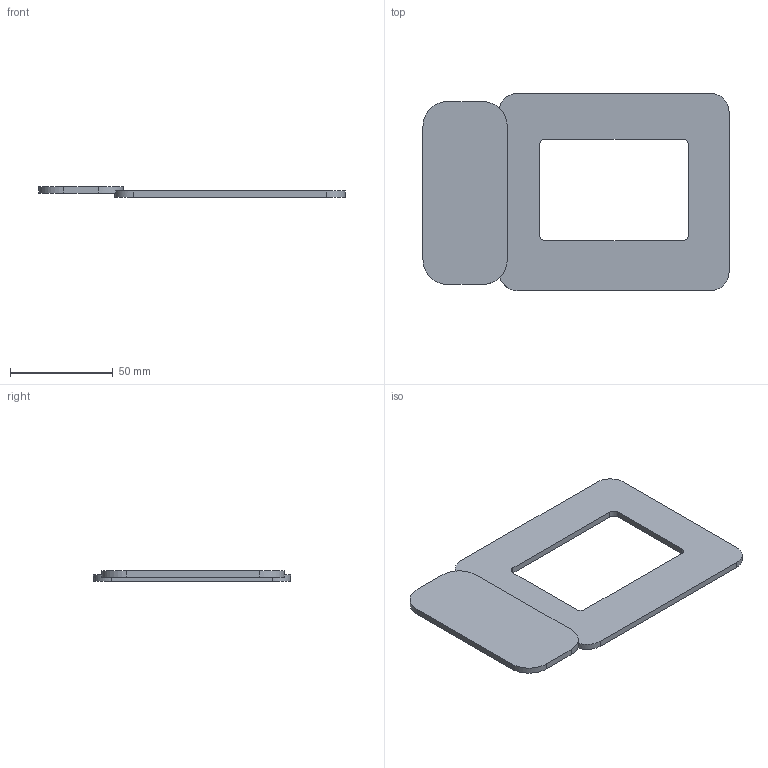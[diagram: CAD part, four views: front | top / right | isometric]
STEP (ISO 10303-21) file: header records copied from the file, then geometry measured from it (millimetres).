
FILE_DESCRIPTION(('Open CASCADE Model'),'2;1');
FILE_NAME('Open CASCADE Shape Model','2026-11-05T01:23:30',('Author'),( 'Open CASCADE'),'Open CASCADE STEP processor 7.8','Open CASCADE 7.8' ,'Unknown');
FILE_SCHEMA(('AUTOMOTIVE_DESIGN { 1 0 10303 214 1 1 1 1 }'));
Length unit declared in the file: millimetre
Products named in the file (1): Open CASCADE STEP translator 7.8 3
Bounding box: 149 x 96 x 5 mm (x, y, z)
Volume: 31571.5 mm3; surface area: 23105.1 mm2
Topology: 1 solids, 1 shells, 28 faces, 78 edges, 52 vertices
Faces by surface type: plane 16, cylinder 12
Entity records: 1998 total; most frequent: CARTESIAN_POINT 435, DIRECTION 300, LINE 178, VECTOR 178, ORIENTED_EDGE 156, PCURVE 156, DEFINITIONAL_REPRESENTATION 156, EDGE_CURVE 78
